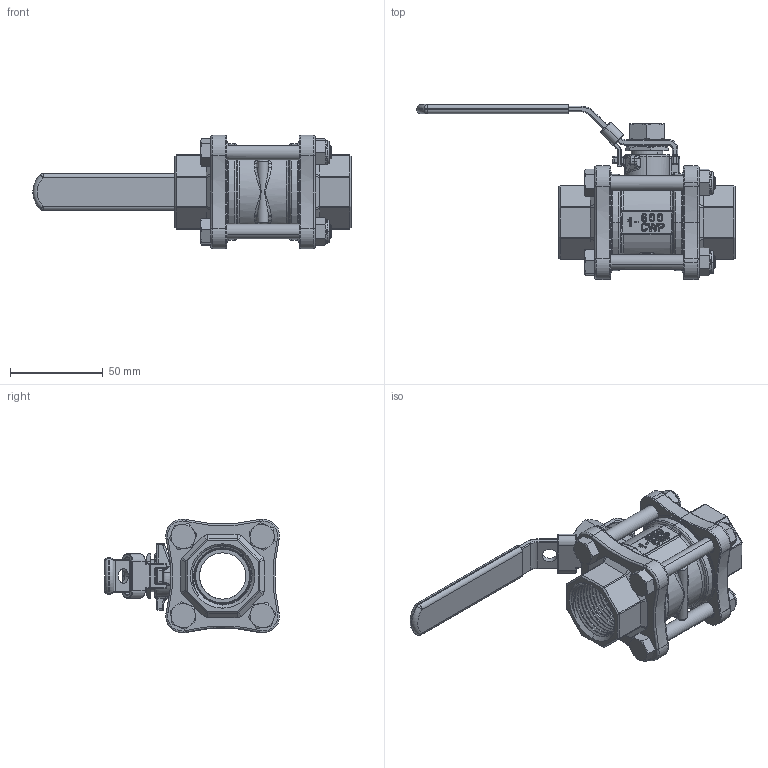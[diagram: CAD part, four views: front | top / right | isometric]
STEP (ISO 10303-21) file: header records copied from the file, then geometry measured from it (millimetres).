
FILE_DESCRIPTION (( 'STEP AP203' ), '1' );
FILE_NAME ('T-25.STEP', '2025-02-27T05:15:59', ( 'user' ), ( '' ), 'SwSTEP 2.0', 'SolidWorks 2012', '' );
FILE_SCHEMA (( 'CONFIG_CONTROL_DESIGN' ));
Length unit declared in the file: millimetre
Products named in the file (17): T-25; 掛鎖; 15-HANDLE NUT; 14-HANDLE COVER; 13-HANDLE; 12-CAP BOLT; 11-CAP NUT; 10-GLAND; 9-BODY SEAL; 8-GLAND PACKING; 7-O-RING; 6-THRUST WASHER; 5-SEAT; 4-STEM; 3-BALL; 2-CAP; 1-BODY
Assembly tree (26 placements, depth 2):
  T-25
    1-BODY
    2-CAP  x2
    3-BALL
    4-STEM
    5-SEAT  x2
    6-THRUST WASHER
    7-O-RING  x2
    8-GLAND PACKING
    9-BODY SEAL  x2
    10-GLAND
    11-CAP NUT  x4
    12-CAP BOLT  x4
    13-HANDLE
    14-HANDLE COVER
    15-HANDLE NUT
    掛鎖
Bounding box: 171.74 x 94.36 x 61.36 mm (x, y, z)
Volume: 156913.7 mm3; surface area: 93178.5 mm2
Topology: 26 solids, 26 shells, 1690 faces, 4170 edges, 2515 vertices
Faces by surface type: cylinder 517, bspline 408, plane 345, cone 233, torus 137, sphere 50
Entity records: 83734 total; most frequent: CARTESIAN_POINT 56678, ORIENTED_EDGE 5712, DIRECTION 4603, EDGE_CURVE 2856, AXIS2_PLACEMENT_3D 1896, VERTEX_POINT 1729, EDGE_LOOP 1261, ADVANCED_FACE 1191
